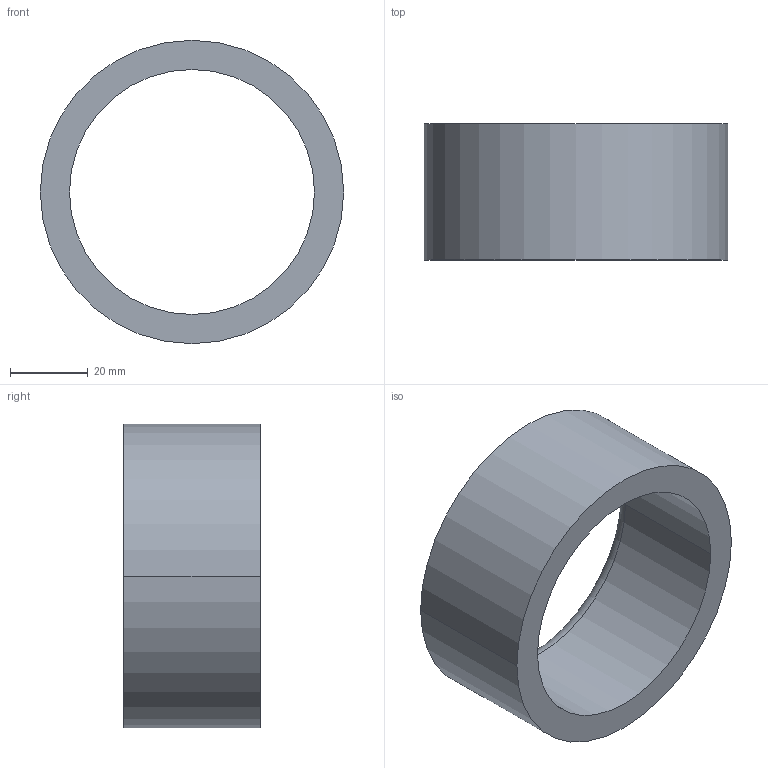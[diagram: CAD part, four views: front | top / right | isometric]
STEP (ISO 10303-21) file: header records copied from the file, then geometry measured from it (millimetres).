
FILE_DESCRIPTION (( 'STEP AP203' ), '1' );
FILE_NAME ('30800.WPP78M63.0.step', '2019-01-23T23:05:15', ( '' ), ( '' ), 'SwSTEP 2.0', 'SolidWorks 2017', '' );
FILE_SCHEMA (( 'CONFIG_CONTROL_DESIGN' ));
Length unit declared in the file: millimetre
Products named in the file (1): 30800.WPP78M63.0
Bounding box: 78 x 35 x 78 mm (x, y, z)
Volume: 57440.2 mm3; surface area: 18493.3 mm2
Topology: 1 solids, 1 shells, 8 faces, 16 edges, 10 vertices
Faces by surface type: cylinder 4, torus 2, plane 2
Entity records: 297 total; most frequent: DIRECTION 46, CARTESIAN_POINT 35, ORIENTED_EDGE 32, AXIS2_PLACEMENT_3D 21, EDGE_CURVE 16, CIRCLE 12, EDGE_LOOP 10, VERTEX_POINT 10
